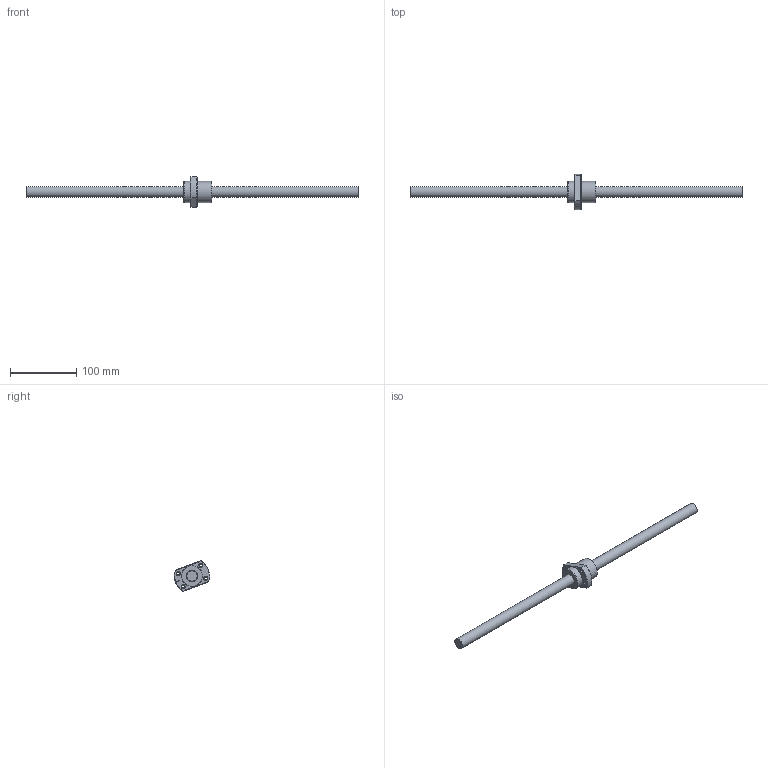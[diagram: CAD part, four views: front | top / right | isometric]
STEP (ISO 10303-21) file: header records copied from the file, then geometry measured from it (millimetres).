
FILE_DESCRIPTION (( 'STEP AP203' ), '1' );
FILE_NAME ('SFYA01632-1.6.step', '2024-05-22T07:51:30', ( '' ), ( '' ), 'SwSTEP 2.0', 'SolidWorks 2022', '' );
FILE_SCHEMA (( 'CONFIG_CONTROL_DESIGN' ));
Length unit declared in the file: millimetre
Products named in the file (1): SFYA01632-1.6
Bounding box: 500 x 53 x 45.86 mm (x, y, z)
Volume: 131670.8 mm3; surface area: 36057.3 mm2
Topology: 2 solids, 2 shells, 51 faces, 124 edges, 79 vertices
Faces by surface type: cylinder 18, plane 13, cone 9, torus 6, bspline 5
Full cylindrical faces by diameter (mm): 2 x1, 4.5 x4, 5 x6, 16 x1, 17.9 x1, 32 x2
Entity records: 2999 total; most frequent: CARTESIAN_POINT 2046, DIRECTION 170, ORIENTED_EDGE 156, EDGE_LOOP 80, EDGE_CURVE 78, AXIS2_PLACEMENT_3D 77, VERTEX_POINT 62, FACE_OUTER_BOUND 57
